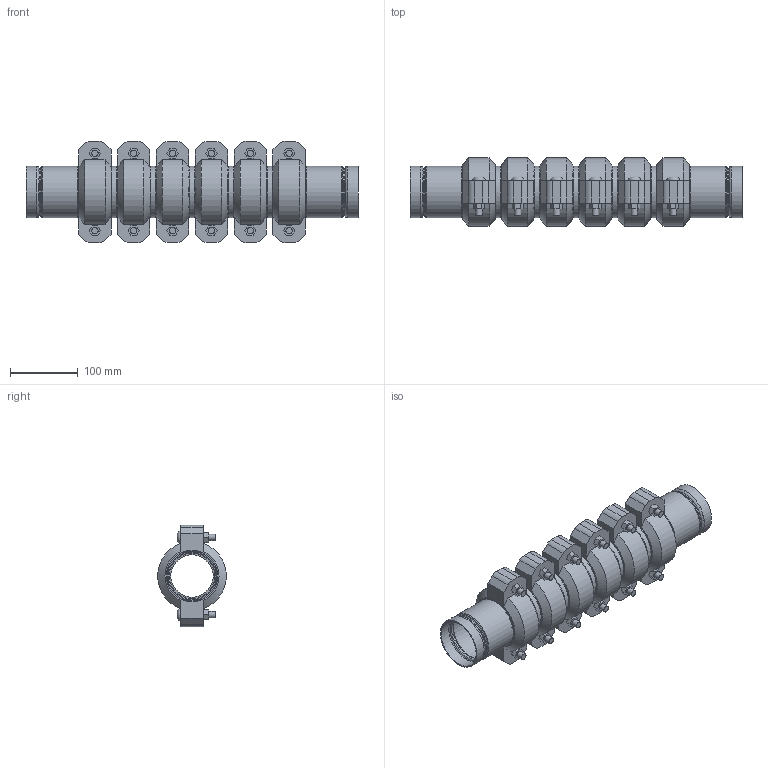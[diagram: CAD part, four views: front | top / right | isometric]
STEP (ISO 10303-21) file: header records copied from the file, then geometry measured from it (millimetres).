
FILE_DESCRIPTION(/* description */ ('VIC STRENGTHIN 100 EXPANSION JOINT 6 COUPLINGS COMPRESSED STYLE E155 (ST1)','CAx-IF Rec.Pracs.---Representation and Presentation of Product Manufacturing Information (PMI)---4.0---2014-10-13'),/* implementation_level */ '2;1');
FILE_NAME(/* name */ 'C:\Users\Vjadhav\AppData\Roaming\Autodesk\ApplicationPlugins\Victaulic.Temp\A634\Victaulic_SS-StrengThin 100_Expansion Joint_Compressed_6 Couplings_Style E155 (ST1)_02.5 (76.1) (65).stp',/* time_stamp */ '2021-07-23T12:33:41+05:00',/* author */ ('kkamble'),/* organization */ ('Victaulic'),/* preprocessor_version */ 'ST-DEVELOPER v17.2',/* originating_system */ 'Autodesk Inventor 2019',/* authorisation */ '');
FILE_SCHEMA (('AP242_MANAGED_MODEL_BASED_3D_ENGINEERING_MIM_LF { 1 0 10303 442 1 1 4 }'));
Length unit declared in the file: inch
Products named in the file (4): E155-02.5 (76.1); E494G-02.5 (76.1); Nipple-02.5 (76.1); 075-02.5 (76.1)
Assembly tree (13 placements, depth 2):
  E155-02.5 (76.1)
    E494G-02.5 (76.1)  x2
    Nipple-02.5 (76.1)  x5
    075-02.5 (76.1)  x6
Bounding box: 490.47 x 101.25 x 149.86 mm (x, y, z)
Volume: 1780218.9 mm3; surface area: 511774 mm2
Topology: 13 solids, 25 shells, 446 faces, 1158 edges, 814 vertices
Faces by surface type: plane 246, cylinder 128, torus 32, cone 28, bspline 12
Full cylindrical faces by diameter (mm): 9.525 x24, 11.43 x12, 62.713 x5, 67.158 x2, 69.063 x2, 70.358 x2, 72.263 x12, 73 x6, 76.2 x27
Entity records: 3713 total; most frequent: CARTESIAN_POINT 677, DIRECTION 653, ORIENTED_EDGE 544, AXIS2_PLACEMENT_3D 277, EDGE_CURVE 272, VERTEX_POINT 195, CIRCLE 163, EDGE_LOOP 121
